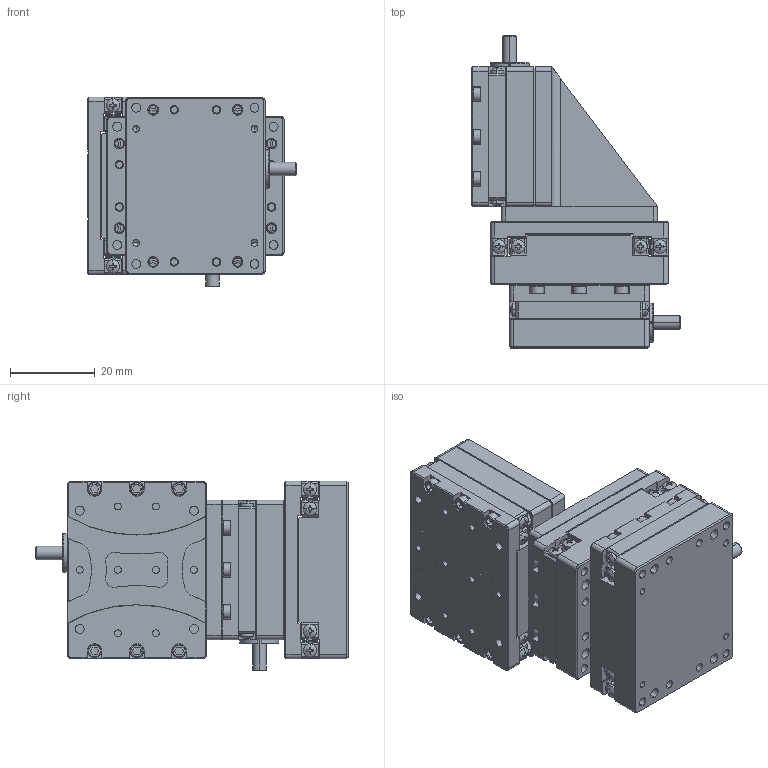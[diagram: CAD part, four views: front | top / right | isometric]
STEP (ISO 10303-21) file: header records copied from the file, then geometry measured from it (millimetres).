
FILE_DESCRIPTION (( 'STEP AP214' ), '1' );
FILE_NAME ('N56.XYZ10E-B1闭环三维直线压电马达3D图（25.08.01）.STEP', '2026-05-25T07:36:25', ( '微软用户' ), ( '微软中国' ), 'SwSTEP 2.0', 'SolidWorks 2016', '' );
FILE_SCHEMA (( 'AUTOMOTIVE_DESIGN' ));
Length unit declared in the file: millimetre
Products named in the file (1): N56.XYZ10E-B1闭环三维直线压电马达3D图（25.08.01）
Bounding box: 49.4 x 73.9 x 44.9 mm (x, y, z)
Volume: 56016.2 mm3; surface area: 49118.4 mm2
Topology: 133 solids, 133 shells, 3357 faces, 8356 edges, 5370 vertices
Faces by surface type: plane 1669, cylinder 1328, cone 249, torus 72, sphere 39
Entity records: 138827 total; most frequent: CARTESIAN_POINT 19028, DIRECTION 17514, ORIENTED_EDGE 16400, EDGE_CURVE 8200, AXIS2_PLACEMENT_3D 6528, VERTEX_POINT 5370, VECTOR 4458, LINE 4458
